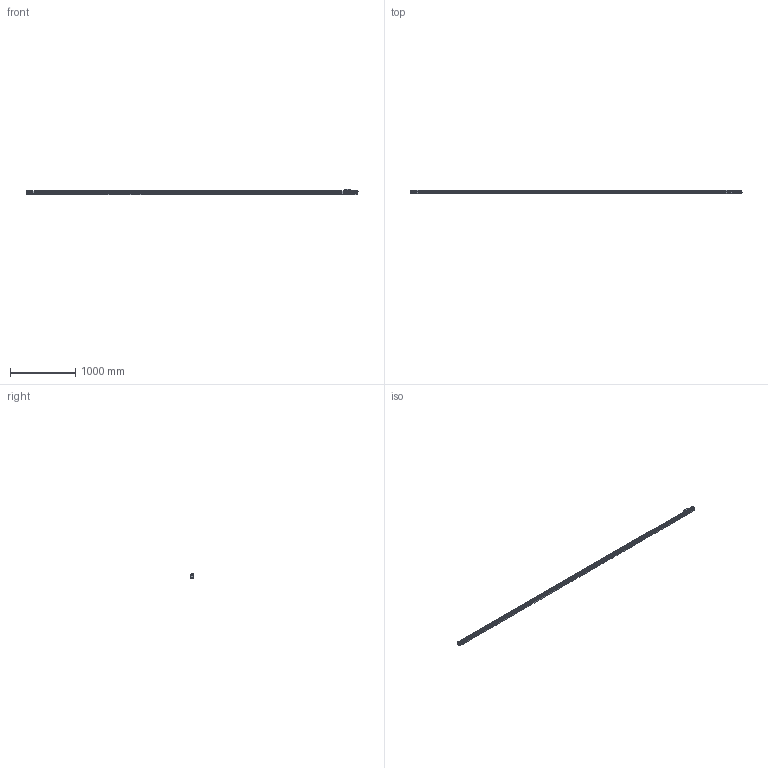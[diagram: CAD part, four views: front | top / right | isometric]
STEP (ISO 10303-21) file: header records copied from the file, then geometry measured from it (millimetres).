
FILE_DESCRIPTION(('Creo Elements/Direct Modeling STEP Export'),'2;1');
FILE_NAME('REGLA_L3_4840_M.stp','2021-02-03T13:05:26',(''),(''),'Creo Elements/Direct Modeling STEP processor for AP214 (Solid Model)','Creo Elements/Direct Modeling 19.0G 27-Nov-2017 (C) Parametric Technology GmbH','');
FILE_SCHEMA(('AUTOMOTIVE_DESIGN { 1 0 10303 214 1 1 1 1 }'));
Products named in the file (3): PERFIL_L3_4840; CABEZA_L3_M8; MOD_L3_4840_M
Assembly tree (2 placements, depth 2):
  MOD_L3_4840_M
    CABEZA_L3_M8
    PERFIL_L3_4840
Bounding box: 5090 x 50 x 85 mm (x, y, z)
Volume: 13219620 mm3; surface area: 1475471.6 mm2
Topology: 2 solids, 2 shells, 2141 faces, 6163 edges, 4123 vertices
Faces by surface type: plane 1083, cylinder 742, cone 201, bspline 59, torus 50, extrusion 6
Entity records: 86659 total; most frequent: CARTESIAN_POINT 25124, ORIENTED_EDGE 12310, DIRECTION 10916, EDGE_CURVE 6155, VERTEX_POINT 4123, VECTOR 3890, LINE 3884, AXIS2_PLACEMENT_3D 3513
